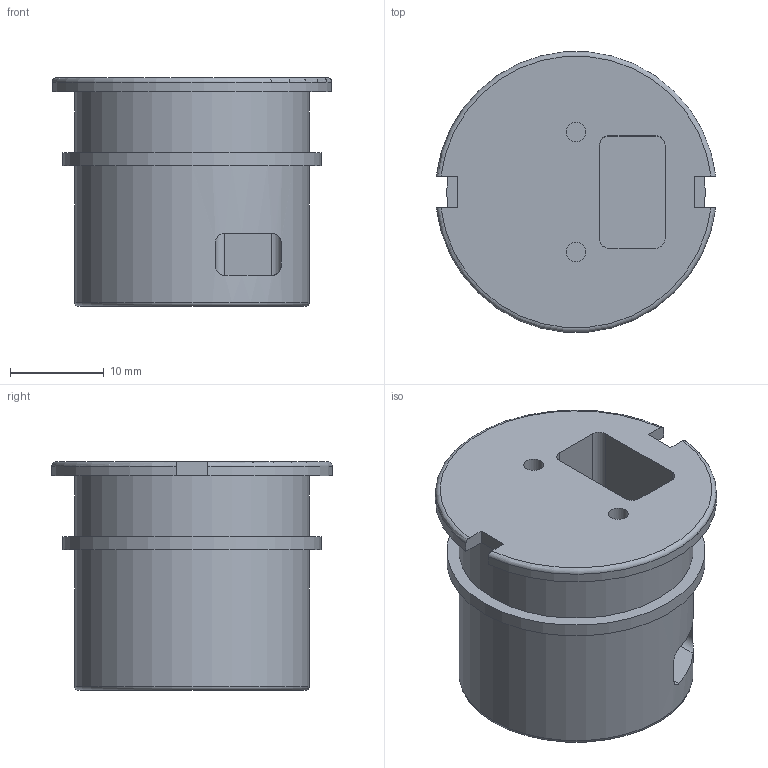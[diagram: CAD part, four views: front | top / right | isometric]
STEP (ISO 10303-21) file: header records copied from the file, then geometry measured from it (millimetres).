
FILE_DESCRIPTION(('Open CASCADE Model'),'2;1');
FILE_NAME('Open CASCADE Shape Model','2026-11-01T16:33:57',('Author'),( 'Open CASCADE'),'Open CASCADE STEP processor 8.0','build123d', 'Unknown');
FILE_SCHEMA(('AUTOMOTIVE_DESIGN { 1 0 10303 214 1 1 1 1 }'));
Length unit declared in the file: millimetre
Products named in the file (1): SOLID
Bounding box: 29.81 x 29.89 x 24.4 mm (x, y, z)
Volume: 9575.1 mm3; surface area: 4604 mm2
Topology: 1 solids, 1 shells, 41 faces, 96 edges, 63 vertices
Faces by surface type: plane 20, cylinder 18, torus 3
Full cylindrical faces by diameter (mm): 2.1 x2, 19.5 x1, 25 x2, 27.6 x1
Entity records: 2816 total; most frequent: CARTESIAN_POINT 937, DIRECTION 324, ORIENTED_EDGE 192, PCURVE 192, DEFINITIONAL_REPRESENTATION 192, LINE 152, VECTOR 152, EDGE_CURVE 96
